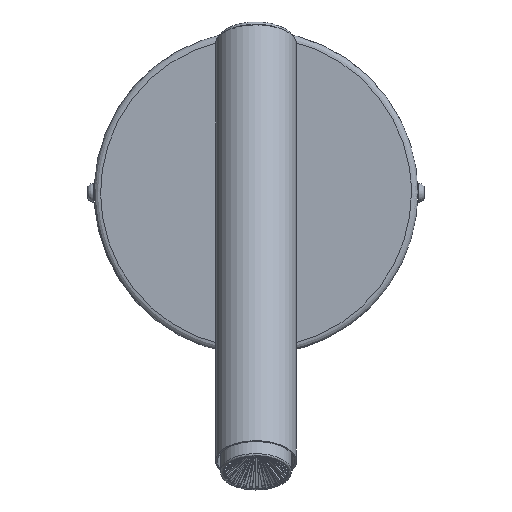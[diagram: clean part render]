
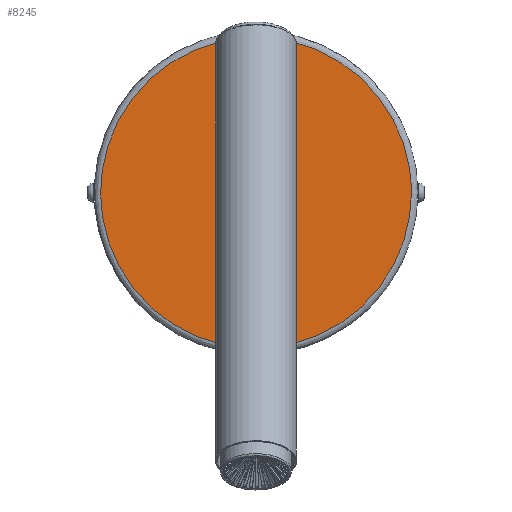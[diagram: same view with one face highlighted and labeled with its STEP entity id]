
A CAD part, front view. The second image highlights one B-rep face of the part: STEP entity #8245.
In plain terms, the highlighted free-form (B-spline) face has degree [1, 1] with [2, 2] control points.
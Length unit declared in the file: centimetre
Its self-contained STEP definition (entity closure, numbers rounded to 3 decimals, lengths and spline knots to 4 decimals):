
#6930 = CARTESIAN_POINT ('', (0.489, -2.7, 0.4113));
#6931 = VERTEX_POINT ('', #6930);
#6938 = CARTESIAN_POINT ('', (0.441, -2.7, 0.4623));
#6939 = VERTEX_POINT ('', #6938);
#6940 = CARTESIAN_POINT ('', (0.489, -2.7, 0.4113));
#6941 = CARTESIAN_POINT ('', (0.4797, -2.7, 0.4506));
#6942 = CARTESIAN_POINT ('', (0.441, -2.7, 0.4623));
#6943 = (
   BOUNDED_CURVE ()
   B_SPLINE_CURVE (2, (#6940, #6941, #6942), .UNSPECIFIED., .F., .U.)
   B_SPLINE_CURVE_WITH_KNOTS ((3, 3), (330., 390.), .UNSPECIFIED.)
   CURVE ()
   GEOMETRIC_REPRESENTATION_ITEM ()
   RATIONAL_B_SPLINE_CURVE ((1., 0.866, 1.))
   REPRESENTATION_ITEM ('')
);
#6944 = EDGE_CURVE ('', #6931, #6939, #6943, .T.);
#7147 = CARTESIAN_POINT ('', (0.6227, -2.7, -0.1668));
#7148 = VERTEX_POINT ('', #7147);
#7181 = CARTESIAN_POINT ('', (0.6007, -2.7, -0.2178));
#7182 = VERTEX_POINT ('', #7181);
#7189 = CARTESIAN_POINT ('', (0.6007, -2.7, -0.2178));
#7190 = CARTESIAN_POINT ('', (0.6227, -2.7, -0.1971));
#7191 = CARTESIAN_POINT ('', (0.6227, -2.7, -0.1668));
#7192 = (
   BOUNDED_CURVE ()
   B_SPLINE_CURVE (2, (#7189, #7190, #7191), .UNSPECIFIED., .F., .U.)
   B_SPLINE_CURVE_WITH_KNOTS ((3, 3), (330., 376.5259), .UNSPECIFIED.)
   CURVE ()
   GEOMETRIC_REPRESENTATION_ITEM ()
   RATIONAL_B_SPLINE_CURVE ((1., 0.896, 0.953))
   REPRESENTATION_ITEM ('')
);
#7193 = EDGE_CURVE ('', #7182, #7148, #7192, .T.);
#7280 = CARTESIAN_POINT ('', (-0.1798, -2.7, 0.6131));
#7281 = VERTEX_POINT ('', #7280);
#7313 = CARTESIAN_POINT ('', (-0.1117, -2.7, 0.6291));
#7314 = VERTEX_POINT ('', #7313);
#7321 = CARTESIAN_POINT ('', (-0.1117, -2.7, 0.6291));
#7322 = CARTESIAN_POINT ('', (-0.1504, -2.7, 0.6408));
#7323 = CARTESIAN_POINT ('', (-0.1798, -2.7, 0.6131));
#7324 = (
   BOUNDED_CURVE ()
   B_SPLINE_CURVE (2, (#7321, #7322, #7323), .UNSPECIFIED., .F., .U.)
   B_SPLINE_CURVE_WITH_KNOTS ((3, 3), (330., 390.), .UNSPECIFIED.)
   CURVE ()
   GEOMETRIC_REPRESENTATION_ITEM ()
   RATIONAL_B_SPLINE_CURVE ((1., 0.866, 1.))
   REPRESENTATION_ITEM ('')
);
#7325 = EDGE_CURVE ('', #7314, #7281, #7324, .T.);
#7508 = CARTESIAN_POINT ('', (0.1117, -2.7, -0.6291));
#7509 = VERTEX_POINT ('', #7508);
#7516 = CARTESIAN_POINT ('', (0.1798, -2.7, -0.6131));
#7517 = VERTEX_POINT ('', #7516);
#7518 = CARTESIAN_POINT ('', (0.1117, -2.7, -0.6291));
#7519 = CARTESIAN_POINT ('', (0.1504, -2.7, -0.6408));
#7520 = CARTESIAN_POINT ('', (0.1798, -2.7, -0.6131));
#7521 = (
   BOUNDED_CURVE ()
   B_SPLINE_CURVE (2, (#7518, #7519, #7520), .UNSPECIFIED., .F., .U.)
   B_SPLINE_CURVE_WITH_KNOTS ((3, 3), (330., 390.), .UNSPECIFIED.)
   CURVE ()
   GEOMETRIC_REPRESENTATION_ITEM ()
   RATIONAL_B_SPLINE_CURVE ((1., 0.866, 1.))
   REPRESENTATION_ITEM ('')
);
#7522 = EDGE_CURVE ('', #7509, #7517, #7521, .T.);
#7630 = CARTESIAN_POINT ('', (-0.6209, -2.7, 0.1508));
#7631 = VERTEX_POINT ('', #7630);
#7663 = CARTESIAN_POINT ('', (-0.6007, -2.7, 0.2178));
#7664 = VERTEX_POINT ('', #7663);
#7671 = CARTESIAN_POINT ('', (-0.6007, -2.7, 0.2178));
#7672 = CARTESIAN_POINT ('', (-0.6301, -2.7, 0.1902));
#7673 = CARTESIAN_POINT ('', (-0.6209, -2.7, 0.1508));
#7674 = (
   BOUNDED_CURVE ()
   B_SPLINE_CURVE (2, (#7671, #7672, #7673), .UNSPECIFIED., .F., .U.)
   B_SPLINE_CURVE_WITH_KNOTS ((3, 3), (330., 390.), .UNSPECIFIED.)
   CURVE ()
   GEOMETRIC_REPRESENTATION_ITEM ()
   RATIONAL_B_SPLINE_CURVE ((1., 0.866, 1.))
   REPRESENTATION_ITEM ('')
);
#7675 = EDGE_CURVE ('', #7664, #7631, #7674, .T.);
#7864 = CARTESIAN_POINT ('', (-0.489, -2.7, -0.4113));
#7865 = VERTEX_POINT ('', #7864);
#7872 = CARTESIAN_POINT ('', (-0.441, -2.7, -0.4623));
#7873 = VERTEX_POINT ('', #7872);
#7874 = CARTESIAN_POINT ('', (-0.489, -2.7, -0.4113));
#7875 = CARTESIAN_POINT ('', (-0.4797, -2.7, -0.4506));
#7876 = CARTESIAN_POINT ('', (-0.441, -2.7, -0.4623));
#7877 = (
   BOUNDED_CURVE ()
   B_SPLINE_CURVE (2, (#7874, #7875, #7876), .UNSPECIFIED., .F., .U.)
   B_SPLINE_CURVE_WITH_KNOTS ((3, 3), (330., 390.), .UNSPECIFIED.)
   CURVE ()
   GEOMETRIC_REPRESENTATION_ITEM ()
   RATIONAL_B_SPLINE_CURVE ((1., 0.866, 1.))
   REPRESENTATION_ITEM ('')
);
#7878 = EDGE_CURVE ('', #7865, #7873, #7877, .T.);
#8178 = CARTESIAN_POINT ('', (4.8, -2.7, 0.));
#8179 = VERTEX_POINT ('', #8178);
#8180 = CARTESIAN_POINT ('', (4.8, -2.7, 0.));
#8181 = CARTESIAN_POINT ('', (4.8, -2.7, -4.8));
#8182 = CARTESIAN_POINT ('', (0., -2.7, -4.8));
#8183 = CARTESIAN_POINT ('', (-4.8, -2.7, -4.8));
#8184 = CARTESIAN_POINT ('', (-4.8, -2.7, 0.));
#8185 = CARTESIAN_POINT ('', (-4.8, -2.7, 4.8));
#8186 = CARTESIAN_POINT ('', (0., -2.7, 4.8));
#8187 = CARTESIAN_POINT ('', (4.8, -2.7, 4.8));
#8188 = CARTESIAN_POINT ('', (4.8, -2.7, 0.));
#8189 = (
   BOUNDED_CURVE ()
   B_SPLINE_CURVE (2, (#8180, #8181, #8182, #8183, #8184, #8185, #8186, #8187, #8188), .UNSPECIFIED., .T., .U.)
   B_SPLINE_CURVE_WITH_KNOTS ((3, 2, 2, 2, 3), (180., 270., 360., 450., 540.), .UNSPECIFIED.)
   CURVE ()
   GEOMETRIC_REPRESENTATION_ITEM ()
   RATIONAL_B_SPLINE_CURVE ((1., 0.707, 1., 0.707, 1., 0.707, 1., 0.707, 1.))
   REPRESENTATION_ITEM ('')
);
#8190 = EDGE_CURVE ('', #8179, #8179, #8189, .T.);
#8191 = ORIENTED_EDGE ('', *, *, #8190, .F.);
#8192 = EDGE_LOOP ('', (#8191));
#8193 = FACE_OUTER_BOUND ('', #8192, .T.);
#8194 = ORIENTED_EDGE ('', *, *, #6944, .F.);
#8195 = CARTESIAN_POINT ('', (0.6209, -2.7, -0.1508));
#8196 = VERTEX_POINT ('', #8195);
#8197 = CARTESIAN_POINT ('', (0.6209, -2.7, -0.1508));
#8198 = CARTESIAN_POINT ('', (0.489, -2.7, 0.4113));
#8199 = B_SPLINE_CURVE_WITH_KNOTS ('', 1, (#8197, #8198), .UNSPECIFIED., .F., .U., (2, 2), (0., 1.), .UNSPECIFIED.);
#8200 = EDGE_CURVE ('', #8196, #6931, #8199, .T.);
#8201 = ORIENTED_EDGE ('', *, *, #8200, .F.);
#8202 = CARTESIAN_POINT ('', (0.6227, -2.7, -0.1668));
#8203 = CARTESIAN_POINT ('', (0.6227, -2.7, -0.1587));
#8204 = CARTESIAN_POINT ('', (0.6209, -2.7, -0.1508));
#8205 = (
   BOUNDED_CURVE ()
   B_SPLINE_CURVE (2, (#8202, #8203, #8204), .UNSPECIFIED., .F., .U.)
   B_SPLINE_CURVE_WITH_KNOTS ((3, 3), (376.5259, 390.), .UNSPECIFIED.)
   CURVE ()
   GEOMETRIC_REPRESENTATION_ITEM ()
   RATIONAL_B_SPLINE_CURVE ((0.953, 0.97, 1.))
   REPRESENTATION_ITEM ('')
);
#8206 = EDGE_CURVE ('', #7148, #8196, #8205, .T.);
#8207 = ORIENTED_EDGE ('', *, *, #8206, .F.);
#8208 = ORIENTED_EDGE ('', *, *, #7193, .F.);
#8209 = CARTESIAN_POINT ('', (0.1798, -2.7, -0.6131));
#8210 = CARTESIAN_POINT ('', (0.6007, -2.7, -0.2178));
#8211 = B_SPLINE_CURVE_WITH_KNOTS ('', 1, (#8209, #8210), .UNSPECIFIED., .F., .U., (2, 2), (0., 1.), .UNSPECIFIED.);
#8212 = EDGE_CURVE ('', #7517, #7182, #8211, .T.);
#8213 = ORIENTED_EDGE ('', *, *, #8212, .F.);
#8214 = ORIENTED_EDGE ('', *, *, #7522, .F.);
#8215 = CARTESIAN_POINT ('', (-0.441, -2.7, -0.4623));
#8216 = CARTESIAN_POINT ('', (0.1117, -2.7, -0.6291));
#8217 = B_SPLINE_CURVE_WITH_KNOTS ('', 1, (#8215, #8216), .UNSPECIFIED., .F., .U., (2, 2), (0., 1.), .UNSPECIFIED.);
#8218 = EDGE_CURVE ('', #7873, #7509, #8217, .T.);
#8219 = ORIENTED_EDGE ('', *, *, #8218, .F.);
#8220 = ORIENTED_EDGE ('', *, *, #7878, .F.);
#8221 = CARTESIAN_POINT ('', (-0.6209, -2.7, 0.1508));
#8222 = CARTESIAN_POINT ('', (-0.489, -2.7, -0.4113));
#8223 = B_SPLINE_CURVE_WITH_KNOTS ('', 1, (#8221, #8222), .UNSPECIFIED., .F., .U., (2, 2), (0., 1.), .UNSPECIFIED.);
#8224 = EDGE_CURVE ('', #7631, #7865, #8223, .T.);
#8225 = ORIENTED_EDGE ('', *, *, #8224, .F.);
#8226 = ORIENTED_EDGE ('', *, *, #7675, .F.);
#8227 = CARTESIAN_POINT ('', (-0.1798, -2.7, 0.6131));
#8228 = CARTESIAN_POINT ('', (-0.6007, -2.7, 0.2178));
#8229 = B_SPLINE_CURVE_WITH_KNOTS ('', 1, (#8227, #8228), .UNSPECIFIED., .F., .U., (2, 2), (0., 1.), .UNSPECIFIED.);
#8230 = EDGE_CURVE ('', #7281, #7664, #8229, .T.);
#8231 = ORIENTED_EDGE ('', *, *, #8230, .F.);
#8232 = ORIENTED_EDGE ('', *, *, #7325, .F.);
#8233 = CARTESIAN_POINT ('', (0.441, -2.7, 0.4623));
#8234 = CARTESIAN_POINT ('', (-0.1117, -2.7, 0.6291));
#8235 = B_SPLINE_CURVE_WITH_KNOTS ('', 1, (#8233, #8234), .UNSPECIFIED., .F., .U., (2, 2), (0., 1.), .UNSPECIFIED.);
#8236 = EDGE_CURVE ('', #6939, #7314, #8235, .T.);
#8237 = ORIENTED_EDGE ('', *, *, #8236, .F.);
#8238 = EDGE_LOOP ('', (#8194, #8201, #8207, #8208, #8213, #8214, #8219, #8220, #8225, #8226, #8231, #8232, #8237));
#8239 = FACE_BOUND ('', #8238, .T.);
#8240 = CARTESIAN_POINT ('', (-4.801, -2.7, -4.801));
#8241 = CARTESIAN_POINT ('', (-4.801, -2.7, 4.801));
#8242 = CARTESIAN_POINT ('', (4.801, -2.7, -4.801));
#8243 = CARTESIAN_POINT ('', (4.801, -2.7, 4.801));
#8244 = B_SPLINE_SURFACE_WITH_KNOTS ('', 1, 1, ((#8240, #8241), (#8242, #8243)), .UNSPECIFIED., .F., .F., .U., (2, 2), (2, 2), (-4.801, 4.801), (-4.801, 4.801), .UNSPECIFIED.);
#8245 = ADVANCED_FACE ('', (#8193, #8239), #8244, .T.);
